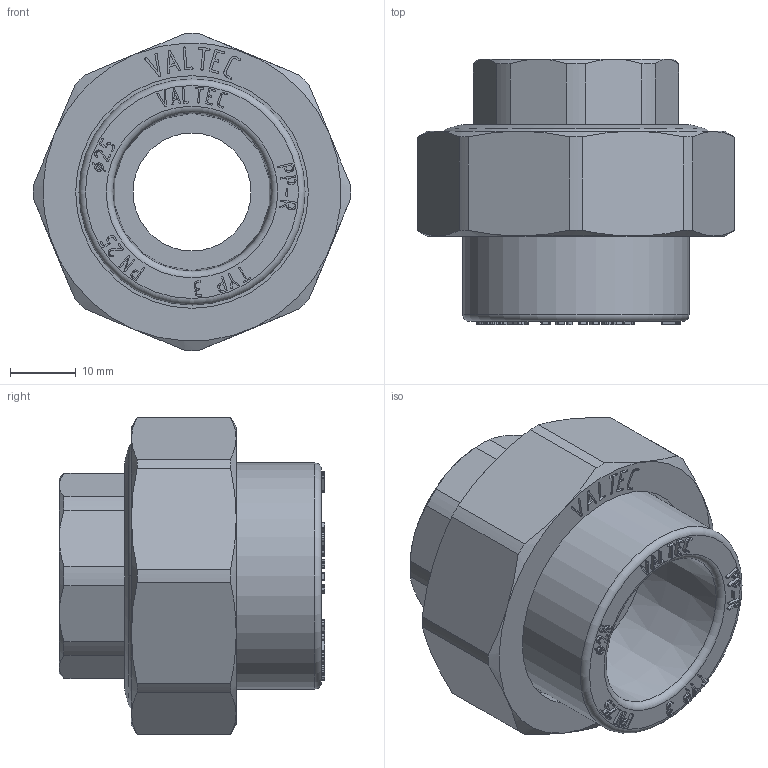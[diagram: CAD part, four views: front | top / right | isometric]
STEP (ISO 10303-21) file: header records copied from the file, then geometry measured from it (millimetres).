
FILE_DESCRIPTION(('STEP AP203'), '1');
FILE_NAME('VTp.762.0.02505', '2026-07-20T08:05:05', ('ledenevaEA'), (''), 'C3D Converter', 'C3D Toolkit', '');
FILE_SCHEMA(('CONFIG_CONTROL_DESIGN'));
Length unit declared in the file: millimetre
Products named in the file (1): ВР.302634.111.000 СБ
Bounding box: 48.5 x 40.5 x 48.5 mm (x, y, z)
Volume: 30567 mm3; surface area: 11341.6 mm2
Topology: 1 solids, 1 shells, 717 faces, 1993 edges, 1320 vertices
Faces by surface type: extrusion 391, plane 278, cone 24, cylinder 20, torus 4
Full cylindrical faces by diameter (mm): 18 x1, 24.118 x1, 34.5 x1, 35.5 x1
Entity records: 23988 total; most frequent: CARTESIAN_POINT 7317, ORIENTED_EDGE 3938, DIRECTION 2247, EDGE_CURVE 1969, VECTOR 1475, VERTEX_POINT 1313, B_SPLINE_CURVE_WITH_KNOTS 1210, LINE 1084
